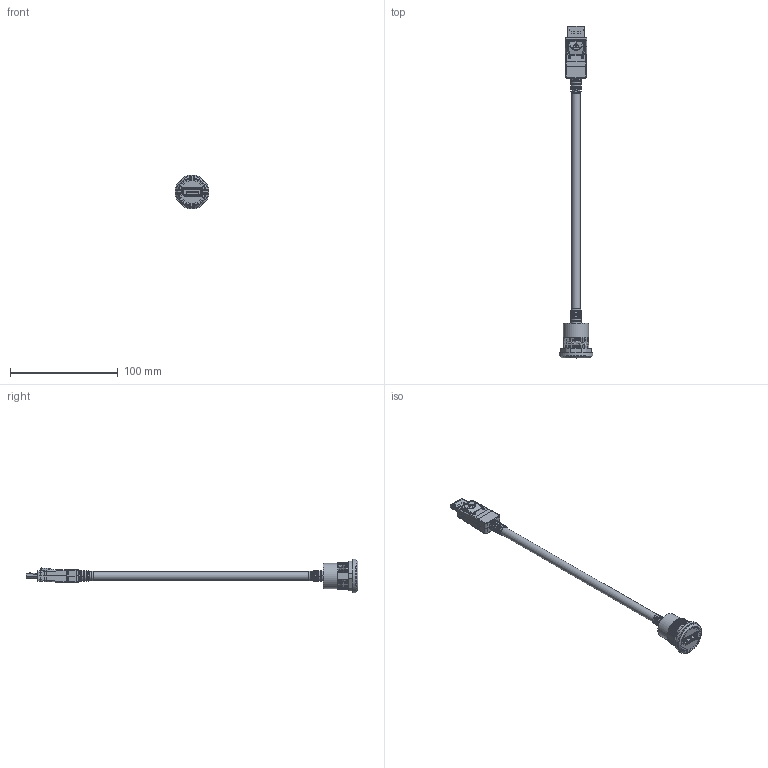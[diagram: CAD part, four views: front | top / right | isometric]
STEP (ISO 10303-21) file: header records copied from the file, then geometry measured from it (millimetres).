
FILE_DESCRIPTION(('FreeCAD Model'),'2;1');
FILE_NAME('Open CASCADE Shape Model','2025-05-08T10:21:35',(''),(''), 'Open CASCADE STEP processor 7.8','FreeCAD','Unknown');
FILE_SCHEMA(('AUTOMOTIVE_DESIGN { 1 0 10303 214 1 1 1 1 }'));
Length unit declared in the file: millimetre
Products named in the file (6): EX_49180_3D; 49185_Displayport_front; 49185_Displayport_cable001; 49185_Displayport_connector; 49185_Coupling nut; 49185_Rubber O-ring
Assembly tree (5 placements, depth 2):
  EX_49180_3D
    49185_Displayport_front
    49185_Displayport_cable001
    49185_Displayport_connector
    49185_Coupling nut
    49185_Rubber O-ring
Bounding box: 31.5 x 308.68 x 31.5 mm (x, y, z)
Volume: 27305.2 mm3; surface area: 22867.9 mm2
Topology: 6 solids, 6 shells, 1605 faces, 4317 edges, 2800 vertices
Faces by surface type: plane 970, cylinder 372, bspline 121, torus 90, cone 38, sphere 8, revolution 4, extrusion 2
Full cylindrical faces by diameter (mm): 8 x2, 21.5 x1, 23.5 x1, 24.7 x1, 24.8 x1, 29 x1, 29.7 x1, 31.5 x1
Entity records: 418791 total; most frequent: CARTESIAN_POINT 378957, ORIENTED_EDGE 8628, DIRECTION 7720, EDGE_CURVE 4314, VERTEX_POINT 2800, VECTOR 2748, LINE 2746, AXIS2_PLACEMENT_3D 2484
